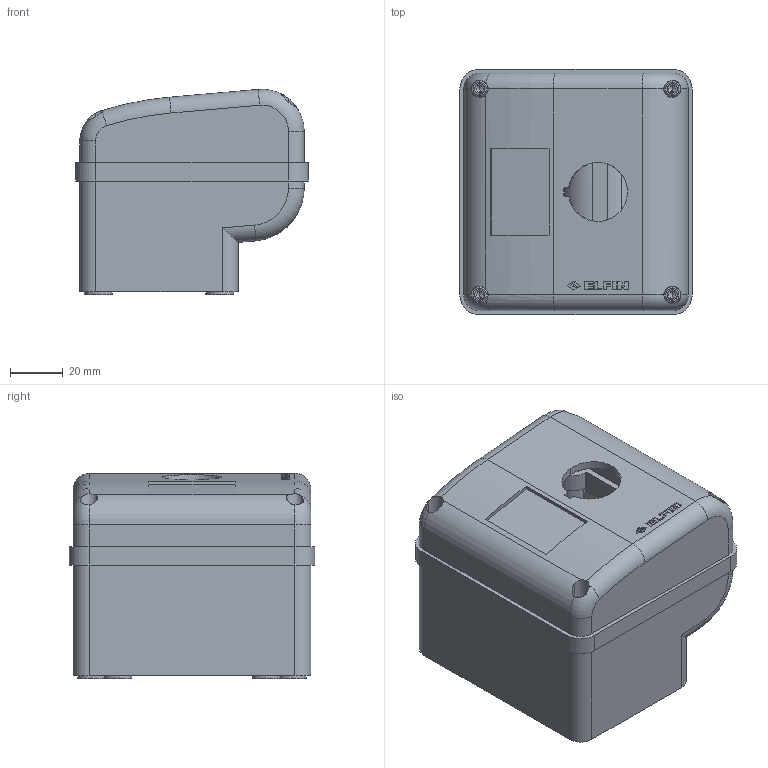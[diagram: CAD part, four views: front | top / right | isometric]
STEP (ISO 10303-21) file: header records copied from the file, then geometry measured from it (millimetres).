
FILE_DESCRIPTION (( 'STEP AP214' ), '1' );
FILE_NAME ('080E90-GP1.STEP', '2026-02-09T14:27:38', ( '' ), ( '' ), 'SwSTEP 2.0', 'SolidWorks 2025', '' );
FILE_SCHEMA (( 'AUTOMOTIVE_DESIGN' ));
Length unit declared in the file: millimetre
Products named in the file (5): 10209 Vite TC ø3,5x24 Torx T15; 224074; 080E90-GP1; 225327-GP1 - WEB; 225331 - WEB
Assembly tree (7 placements, depth 2):
  080E90-GP1
    225331 - WEB
    224074
    225327-GP1 - WEB
    10209 Vite TC ø3,5x24 Torx T15  x4
Bounding box: 88 x 93 x 77.68 mm (x, y, z)
Volume: 124900.5 mm3; surface area: 84705.1 mm2
Topology: 7 solids, 7 shells, 668 faces, 1788 edges, 1162 vertices
Faces by surface type: cylinder 324, plane 270, cone 32, torus 26, bspline 15, sphere 1
Entity records: 16667 total; most frequent: CARTESIAN_POINT 4644, ORIENTED_EDGE 2550, DIRECTION 2403, EDGE_CURVE 1275, AXIS2_PLACEMENT_3D 849, VERTEX_POINT 838, VECTOR 705, LINE 705
